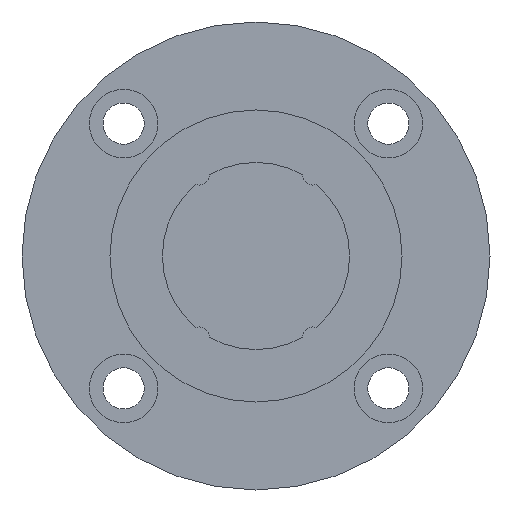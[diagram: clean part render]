
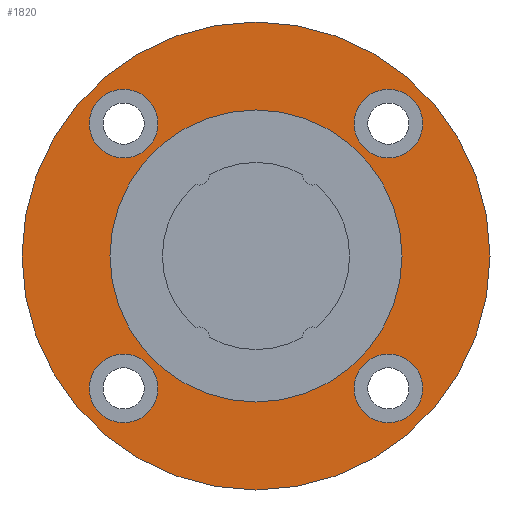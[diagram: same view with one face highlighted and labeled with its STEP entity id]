
A CAD part, left-side view. The second image highlights one B-rep face of the part: STEP entity #1820.
In plain terms, the highlighted planar face has unit normal (-1, 0, 0).
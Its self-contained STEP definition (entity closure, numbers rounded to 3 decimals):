
#497=CARTESIAN_POINT('',(12.,-21.213,-15.713));
#498=VERTEX_POINT('',#497);
#499=CARTESIAN_POINT('',(12.,-21.213,-21.213));
#500=DIRECTION('',(1.0,0.0,0.0));
#501=DIRECTION('',(0.0,0.0,1.0));
#502=AXIS2_PLACEMENT_3D('',#499,#500,#501);
#503=CIRCLE('',#502,5.5);
#504=EDGE_CURVE('',#498,#498,#503,.T.);
#607=CARTESIAN_POINT('',(12.,21.213,-15.713));
#608=VERTEX_POINT('',#607);
#609=CARTESIAN_POINT('',(12.,21.213,-21.213));
#610=DIRECTION('',(1.0,0.0,0.0));
#611=DIRECTION('',(0.0,0.0,1.0));
#612=AXIS2_PLACEMENT_3D('',#609,#610,#611);
#613=CIRCLE('',#612,5.5);
#614=EDGE_CURVE('',#608,#608,#613,.T.);
#717=CARTESIAN_POINT('',(12.,21.213,26.713));
#718=VERTEX_POINT('',#717);
#719=CARTESIAN_POINT('',(12.,21.213,21.213));
#720=DIRECTION('',(1.0,0.0,0.0));
#721=DIRECTION('',(0.0,0.0,1.0));
#722=AXIS2_PLACEMENT_3D('',#719,#720,#721);
#723=CIRCLE('',#722,5.5);
#724=EDGE_CURVE('',#718,#718,#723,.T.);
#827=CARTESIAN_POINT('',(12.,-21.213,26.713));
#828=VERTEX_POINT('',#827);
#829=CARTESIAN_POINT('',(12.,-21.213,21.213));
#830=DIRECTION('',(1.0,0.0,0.0));
#831=DIRECTION('',(0.0,0.0,1.0));
#832=AXIS2_PLACEMENT_3D('',#829,#830,#831);
#833=CIRCLE('',#832,5.5);
#834=EDGE_CURVE('',#828,#828,#833,.T.);
#1774=CARTESIAN_POINT('',(12.,0.0,37.5));
#1775=VERTEX_POINT('',#1774);
#1776=CARTESIAN_POINT('',(12.,0.0,0.));
#1777=DIRECTION('',(-1.0,0.0,0.0));
#1778=DIRECTION('',(0.0,0.0,1.0));
#1779=AXIS2_PLACEMENT_3D('',#1776,#1777,#1778);
#1780=CIRCLE('',#1779,37.5);
#1781=EDGE_CURVE('',#1775,#1775,#1780,.T.);
#1789=CARTESIAN_POINT('',(12.,0.0,30.45));
#1790=DIRECTION('',(-1.0,0.0,0.0));
#1791=DIRECTION('',(0.0,0.0,1.0));
#1792=AXIS2_PLACEMENT_3D('',#1789,#1790,#1791);
#1793=PLANE('',#1792);
#1794=ORIENTED_EDGE('',*,*,#1781,.T.);
#1795=EDGE_LOOP('',(#1794));
#1796=FACE_OUTER_BOUND('',#1795,.T.);
#1797=ORIENTED_EDGE('',*,*,#504,.T.);
#1798=EDGE_LOOP('',(#1797));
#1799=FACE_BOUND('',#1798,.T.);
#1800=ORIENTED_EDGE('',*,*,#614,.T.);
#1801=EDGE_LOOP('',(#1800));
#1802=FACE_BOUND('',#1801,.T.);
#1803=ORIENTED_EDGE('',*,*,#724,.T.);
#1804=EDGE_LOOP('',(#1803));
#1805=FACE_BOUND('',#1804,.T.);
#1806=ORIENTED_EDGE('',*,*,#834,.T.);
#1807=EDGE_LOOP('',(#1806));
#1808=FACE_BOUND('',#1807,.T.);
#1809=CARTESIAN_POINT('',(12.,0.0,23.4));
#1810=VERTEX_POINT('',#1809);
#1811=CARTESIAN_POINT('',(12.,0.0,0.));
#1812=DIRECTION('',(-1.0,0.0,0.0));
#1813=DIRECTION('',(0.0,0.0,1.0));
#1814=AXIS2_PLACEMENT_3D('',#1811,#1812,#1813);
#1815=CIRCLE('',#1814,23.4);
#1816=EDGE_CURVE('',#1810,#1810,#1815,.T.);
#1817=ORIENTED_EDGE('',*,*,#1816,.F.);
#1818=EDGE_LOOP('',(#1817));
#1819=FACE_BOUND('',#1818,.T.);
#1820=ADVANCED_FACE('',(#1796,#1799,#1802,#1805,#1808,#1819),#1793,.T.);
